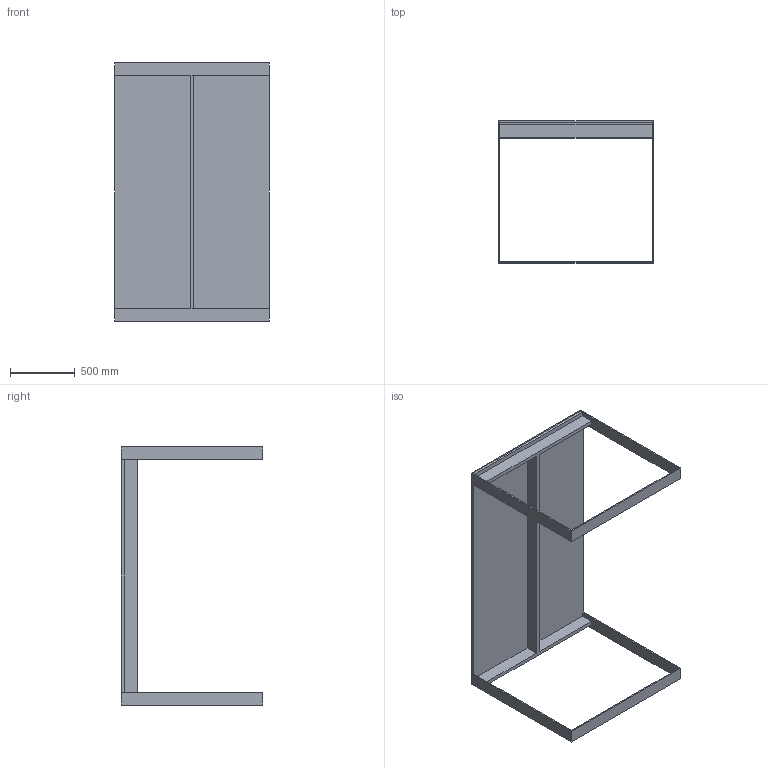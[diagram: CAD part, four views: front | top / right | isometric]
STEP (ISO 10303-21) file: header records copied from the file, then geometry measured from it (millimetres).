
FILE_DESCRIPTION (( 'STEP AP203' ), '1' );
FILE_NAME ('Haag 2000x1200x1100.STEP', '2019-04-02T18:15:02', ( '' ), ( '' ), 'SwSTEP 2.0', 'SolidWorks 2019', '' );
FILE_SCHEMA (( 'CONFIG_CONTROL_DESIGN' ));
Length unit declared in the file: millimetre
Products named in the file (1): Haag 2000x1200x1100
Bounding box: 1200 x 1100 x 2000 mm (x, y, z)
Volume: 91330000 mm3; surface area: 8092200 mm2
Topology: 4 solids, 4 shells, 48 faces, 120 edges, 80 vertices
Faces by surface type: plane 48
Entity records: 1483 total; most frequent: CARTESIAN_POINT 249, ORIENTED_EDGE 240, DIRECTION 218, LINE 120, VECTOR 120, EDGE_CURVE 120, VERTEX_POINT 80, EDGE_LOOP 52
